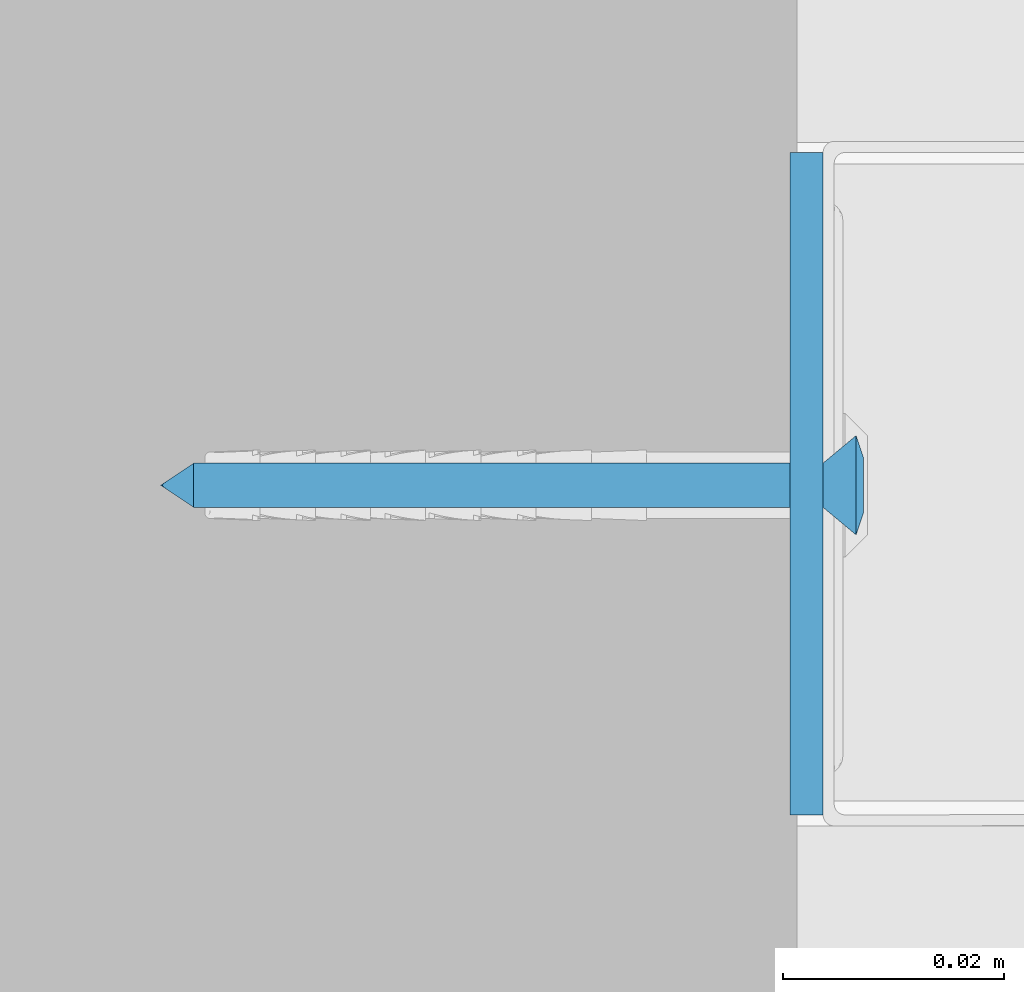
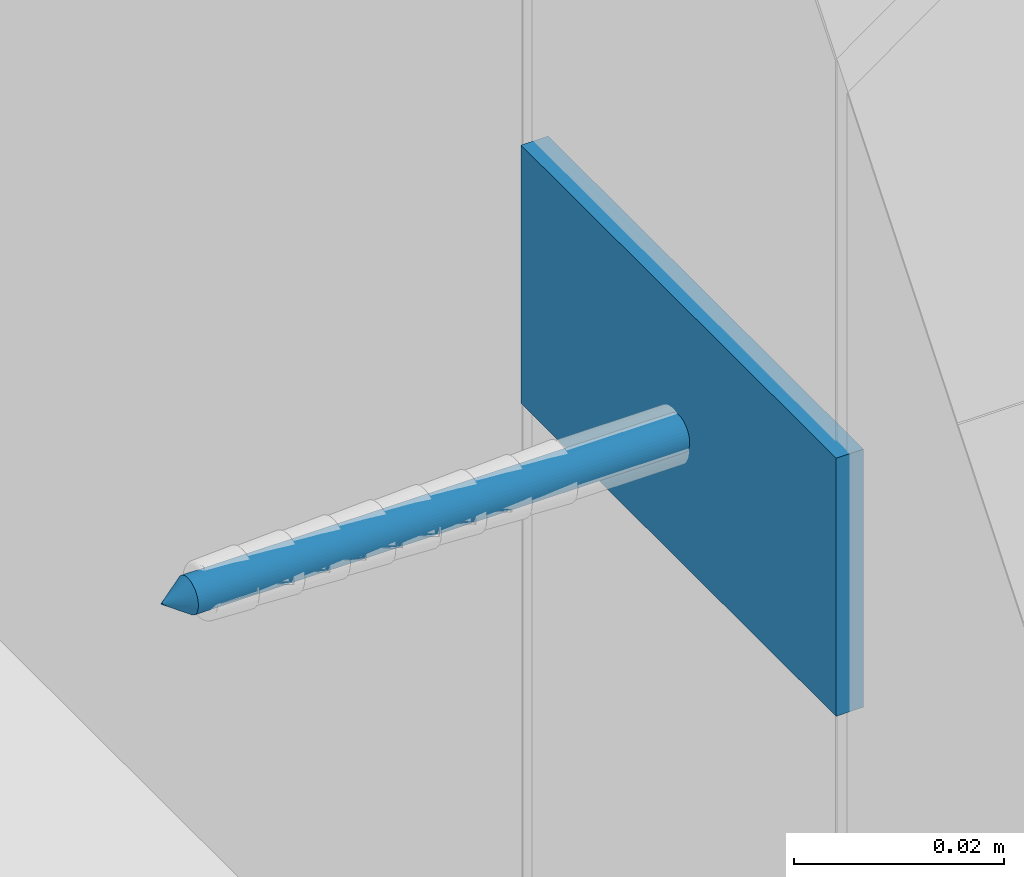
# One storey, part 60 of 67: 2 walls.
"""IFC2X3 building model written with IfcOpenShell, lengths in millimetres."""

from ifc_helpers import new_model, si_unit, frame, origin_with_axes, place, context, subcontext, project, spatial, faceted_brep, material, type_object, element, save


model = new_model("IFC2X3")

# Units and contexts
model_context = context("Model", 3, world=origin_with_axes())
body_context = subcontext(model_context, "Body", "Model", "MODEL_VIEW")
ifc_project = project(units=[si_unit("LENGTHUNIT", "METRE", prefix="MILLI"), si_unit("AREAUNIT", "SQUARE_METRE"), si_unit("VOLUMEUNIT", "CUBIC_METRE")], contexts=[model_context])

# Site, building, storey
site_placement = place(None, frame((2152.14102611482, 674.9749105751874, 57.61556563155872), z_axis=(0.0, 0.0, 1.0), x_axis=(-1.1102230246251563e-16, 1.0, 0.0)))
site = spatial("IfcSite", under=ifc_project, at=site_placement, Name="Default Site", CompositionType="ELEMENT")
building_placement = place(site_placement, origin_with_axes())
building = spatial("IfcBuilding", under=site, at=building_placement, Name="Default Building", CompositionType="ELEMENT")
storey_placement = place(building_placement, origin_with_axes())
storey = spatial("IfcBuildingStorey", under=building, at=storey_placement, Name="Default Building Storey", CompositionType="ELEMENT", Elevation=57.61556563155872)

# Walls
ifc_material = material(Name="Default")
wall_type_1 = type_object("IfcWallType", Name="Kołek rozporowy min. fi 6#35", PredefinedType="NOTDEFINED")
wall_1_placement = place(storey_placement, frame((6891.176283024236, 2016.3286110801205, 1539.671890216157), z_axis=(-6.858158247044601e-13, -1.0, 7.64238051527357e-14), x_axis=(-1.6476028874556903e-11, 7.642380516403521e-14, 1.0)))
element("IfcWall", 1, at=wall_1_placement, inside=storey, type_object=wall_type_1, material=ifc_material, Name="Kołek rozporowy min. fi 6", context=body_context, shape_type="Brep", body=[
    faceted_brep([(-1438.3141994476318, 3453.2833099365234, -0.46425670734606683), (-1435.8141422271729, 3453.2833099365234, -3.464256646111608), (-1435.7895851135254, 3452.970266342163, -3.464256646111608), (-1438.2587671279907, 3452.579259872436, -0.46425670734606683), (-1435.7162714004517, 3452.6650905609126, -3.464256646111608), (-1438.093900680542, 3451.892614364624, -0.46425670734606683), (-1435.5961084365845, 3452.3751735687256, -3.464256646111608), (-1437.8236532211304, 3451.240301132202, -0.46425670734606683), (-1435.4321956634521, 3452.107667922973, -3.464256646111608), (-1437.4547004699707, 3450.6382942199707, -0.46425670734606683), (-1435.22834777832, 3451.8690109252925, -3.464256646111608), (-1436.9961023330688, 3450.101137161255, -0.46425670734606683), (-1434.9896907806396, 3451.665163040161, -3.464256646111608), (-1436.4591836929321, 3449.642658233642, -0.46425670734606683), (-1434.7221851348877, 3451.501131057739, -3.464256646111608), (-1435.8570575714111, 3449.2735862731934, -0.46425670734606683), (-1434.4321489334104, 3451.381206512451, -3.464256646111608), (-1435.2047443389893, 3449.0034580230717, -0.46425670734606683), (-1434.1269731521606, 3451.307773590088, -3.464256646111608), (-1434.5180988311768, 3448.838710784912, -0.46425670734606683), (-1433.8141679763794, 3451.28321647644, -3.464256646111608), (-1433.8141679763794, 3448.7831592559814, -0.46425670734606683), (-1433.5012435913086, 3451.307773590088, -3.464256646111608), (-1433.110237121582, 3448.838710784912, -0.46425670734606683), (-1433.1960678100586, 3451.381206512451, -3.464256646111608), (-1432.4235916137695, 3449.0034580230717, -0.46425670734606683), (-1432.9061508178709, 3451.501131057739, -3.464256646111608), (-1431.771159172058, 3449.2735862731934, -0.46425670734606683), (-1432.6385259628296, 3451.665163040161, -3.464256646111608), (-1431.1691522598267, 3449.642658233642, -0.46425670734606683), (-1432.3999881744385, 3451.8690109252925, -3.464256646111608), (-1430.6321144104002, 3450.101137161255, -0.46425670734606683), (-1432.1961402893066, 3452.107667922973, -3.464256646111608), (-1430.1735162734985, 3450.6382942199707, -0.46425670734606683), (-1432.0321083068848, 3452.3751735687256, -3.464256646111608), (-1429.8045635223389, 3451.240301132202, -0.46425670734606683), (-1431.9120645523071, 3452.6650905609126, -3.464256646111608), (-1429.5344352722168, 3451.892614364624, -0.46425670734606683), (-1431.8387508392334, 3453.5961151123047, -3.464256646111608), (-1429.369568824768, 3453.9871215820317, -0.46425670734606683), (-1429.314136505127, 3453.2833099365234, -0.46425670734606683), (-1431.814193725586, 3453.2833099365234, -3.464256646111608), (-1429.369568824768, 3452.579259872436, -0.46425670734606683), (-1431.8387508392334, 3452.970266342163, -3.464256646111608), (-1431.9120645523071, 3453.9012908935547, -3.464256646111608), (-1429.5344352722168, 3454.6737670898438, -0.46425670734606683), (-1432.0321083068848, 3454.191207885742, -3.464256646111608), (-1429.8045635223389, 3455.3260803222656, -0.46425670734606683), (-1432.1961402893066, 3454.458713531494, -3.464256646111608), (-1430.1735162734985, 3455.9283256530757, -0.46425670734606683), (-1432.3999881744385, 3454.6973705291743, -3.464256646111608), (-1430.6321144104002, 3456.465244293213, -0.46425670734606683), (-1432.6385259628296, 3454.9012184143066, -3.464256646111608), (-1431.1691522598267, 3456.923723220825, -0.46425670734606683), (-1432.9061508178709, 3455.065250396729, -3.464256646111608), (-1431.771159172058, 3457.2927951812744, -0.46425670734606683), (-1433.1960678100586, 3455.1854133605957, -3.464256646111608), (-1432.4235916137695, 3457.562923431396, -0.46425670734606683), (-1433.5012435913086, 3455.25860786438, -3.464256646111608), (-1433.110237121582, 3457.7279090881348, -0.46425670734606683), (-1433.8141679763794, 3455.283164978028, -3.464256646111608), (-1433.8141679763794, 3457.7832221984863, -0.46425670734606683), (-1434.3430995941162, 3457.7519893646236, -0.46425670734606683), (-1434.1269731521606, 3455.25860786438, -3.464256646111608), (-1434.4321489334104, 3455.1854133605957, -3.464256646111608), (-1434.8646402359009, 3457.6590061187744, -0.46425670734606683), (-1435.3716373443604, 3457.504987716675, -0.46425670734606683), (-1434.7221851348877, 3455.065250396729, -3.464256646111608), (-1435.8570575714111, 3457.2927951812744, -0.46425670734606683), (-1434.9896907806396, 3454.9012184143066, -3.464256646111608), (-1435.22834777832, 3454.6973705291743, -3.464256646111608), (-1436.3142251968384, 3457.024812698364, -0.46425670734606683), (-1436.7367029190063, 3456.705093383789, -0.46425670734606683), (-1437.118649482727, 3456.337928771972, -0.46425670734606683), (-1437.4547004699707, 3455.9283256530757, -0.46425670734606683), (-1435.4321956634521, 3454.458713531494, -3.464256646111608), (-1435.5961084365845, 3454.191207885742, -3.464256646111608), (-1437.8236532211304, 3455.3260803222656, -0.46425670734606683), (-1435.7162714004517, 3453.9012908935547, -3.464256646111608), (-1438.093900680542, 3454.6737670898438, -0.46425670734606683), (-1435.7895851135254, 3453.5961151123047, -3.464256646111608), (-1438.2587671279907, 3453.9871215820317, -0.46425670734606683), (-1434.2052936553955, 3455.752372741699, 0.20073754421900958), (-1433.8141679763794, 3455.7831287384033, 0.20073754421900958), (-1434.5866441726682, 3455.6608200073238, 0.20073754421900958), (-1434.9491596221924, 3455.510854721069, 0.20073754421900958), (-1435.2836608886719, 3455.305814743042, 0.20073754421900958), (-1435.581922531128, 3455.0509452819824, 0.20073754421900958), (-1435.836672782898, 3454.7526836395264, 0.20073754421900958), (-1436.0417127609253, 3454.418182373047, 0.20073754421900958), (-1436.1917972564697, 3454.0557861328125, 0.20073754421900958), (-1436.2833499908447, 3453.6743164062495, 0.20073754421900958), (-1436.3141059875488, 3453.2833099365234, 0.20073754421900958), (-1436.2833499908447, 3452.8920650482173, 0.20073754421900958), (-1436.1917972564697, 3452.5105953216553, 0.20073754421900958), (-1436.0417127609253, 3452.148199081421, 0.20073754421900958), (-1435.836672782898, 3451.8136978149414, 0.20073754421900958), (-1435.581922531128, 3451.5154361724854, 0.20073754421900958), (-1435.2836608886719, 3451.260566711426, 0.20073754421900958), (-1434.9491596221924, 3451.0557651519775, 0.20073754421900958), (-1434.5866441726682, 3450.905561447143, 0.20073754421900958), (-1433.4230422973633, 3450.8140087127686, 0.20073754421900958), (-1433.8141679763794, 3450.7832527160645, 0.20073754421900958), (-1434.2052936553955, 3450.8140087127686, 0.20073754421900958), (-1433.0415725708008, 3450.905561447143, 0.20073754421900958), (-1432.6791763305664, 3451.0557651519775, 0.20073754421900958), (-1432.344675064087, 3451.260566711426, 0.20073754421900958), (-1432.0464134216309, 3451.5154361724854, 0.20073754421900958), (-1431.7916631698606, 3451.8136978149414, 0.20073754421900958), (-1431.5866231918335, 3452.148199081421, 0.20073754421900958), (-1431.436538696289, 3452.5105953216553, 0.20073754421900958), (-1431.344985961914, 3452.8920650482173, 0.20073754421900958), (-1431.3141107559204, 3453.2833099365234, 0.20073754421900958), (-1431.344985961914, 3453.6743164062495, 0.20073754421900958), (-1431.436538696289, 3454.0557861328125, 0.20073754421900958), (-1431.5866231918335, 3454.418182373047, 0.20073754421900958), (-1431.7916631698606, 3454.7526836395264, 0.20073754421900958), (-1432.0464134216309, 3455.0509452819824, 0.20073754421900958), (-1432.344675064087, 3455.305814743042, 0.20073754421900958), (-1432.6791763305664, 3455.510854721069, 0.20073754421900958), (-1433.0415725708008, 3455.6608200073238, 0.20073754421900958), (-1433.4230422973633, 3455.752372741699, 0.20073754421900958), (-1433.8141679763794, 3453.2833099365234, -63.46425414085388), (-1435.7895851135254, 3452.970266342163, -60.464255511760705), (-1435.8141422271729, 3453.2833099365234, -60.464255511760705), (-1435.7162714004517, 3452.6650905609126, -60.464255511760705), (-1435.5961084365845, 3452.3751735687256, -60.464255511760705), (-1435.4321956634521, 3452.107667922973, -60.464255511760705), (-1435.22834777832, 3451.8690109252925, -60.464255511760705), (-1434.9896907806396, 3451.665163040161, -60.464255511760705), (-1434.7221851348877, 3451.501131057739, -60.464255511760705), (-1434.4321489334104, 3451.381206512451, -60.464255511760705), (-1434.1269731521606, 3451.307773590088, -60.464255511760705), (-1433.8141679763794, 3451.28321647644, -60.464255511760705), (-1433.5012435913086, 3451.307773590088, -60.464255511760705), (-1433.1960678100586, 3451.381206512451, -60.464255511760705), (-1432.9061508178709, 3451.501131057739, -60.464255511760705), (-1432.6385259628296, 3451.665163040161, -60.464255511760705), (-1432.3999881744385, 3451.8690109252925, -60.464255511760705), (-1432.1961402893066, 3452.107667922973, -60.464255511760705), (-1432.0321083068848, 3452.3751735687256, -60.464255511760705), (-1431.9120645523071, 3452.6650905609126, -60.464255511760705), (-1431.8387508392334, 3452.970266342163, -60.464255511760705), (-1431.814193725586, 3453.2833099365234, -60.464255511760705), (-1431.8387508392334, 3453.5961151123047, -60.464255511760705), (-1431.9120645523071, 3453.9012908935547, -60.464255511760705), (-1432.0321083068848, 3454.191207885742, -60.464255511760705), (-1432.1961402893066, 3454.458713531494, -60.464255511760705), (-1432.3999881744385, 3454.6973705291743, -60.464255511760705), (-1432.6385259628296, 3454.9012184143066, -60.464255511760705), (-1432.9061508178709, 3455.065250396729, -60.464255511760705), (-1433.1960678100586, 3455.1854133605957, -60.464255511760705), (-1433.5012435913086, 3455.25860786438, -60.464255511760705), (-1433.8141679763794, 3455.283164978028, -60.464255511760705), (-1434.1269731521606, 3455.25860786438, -60.464255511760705), (-1434.4321489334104, 3455.1854133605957, -60.464255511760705), (-1434.7221851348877, 3455.065250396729, -60.464255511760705), (-1434.9896907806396, 3454.9012184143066, -60.464255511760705), (-1435.22834777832, 3454.6973705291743, -60.464255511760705), (-1435.4321956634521, 3454.458713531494, -60.464255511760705), (-1435.5961084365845, 3454.191207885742, -60.464255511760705), (-1435.7162714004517, 3453.9012908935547, -60.464255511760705), (-1435.7895851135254, 3453.5961151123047, -60.464255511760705), (-1436.0417127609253, 3454.418182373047, 0.049999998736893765), (-1436.1917972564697, 3454.0557861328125, 0.049999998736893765), (-1436.2833499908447, 3453.6743164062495, 0.049999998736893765), (-1436.3141059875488, 3453.2833099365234, 0.049999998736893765), (-1436.2833499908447, 3452.8920650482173, 0.049999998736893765), (-1436.1917972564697, 3452.5105953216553, 0.049999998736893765), (-1436.0417127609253, 3452.148199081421, 0.049999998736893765), (-1435.836672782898, 3451.8136978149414, 0.049999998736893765), (-1435.581922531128, 3451.5154361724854, 0.049999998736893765), (-1435.2836608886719, 3451.260566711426, 0.049999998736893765), (-1434.9491596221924, 3451.0557651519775, 0.049999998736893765), (-1434.5866441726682, 3450.905561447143, 0.049999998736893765), (-1434.2052936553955, 3450.8140087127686, 0.049999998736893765), (-1433.8141679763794, 3450.7832527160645, 0.049999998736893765), (-1433.4230422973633, 3450.8140087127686, 0.049999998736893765), (-1433.0415725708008, 3450.905561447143, 0.049999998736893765), (-1432.6791763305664, 3451.0557651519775, 0.049999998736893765), (-1432.344675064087, 3451.260566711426, 0.049999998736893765), (-1432.0464134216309, 3451.5154361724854, 0.049999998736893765), (-1431.7916631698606, 3451.8136978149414, 0.049999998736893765), (-1431.5866231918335, 3452.148199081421, 0.049999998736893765), (-1431.436538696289, 3452.5105953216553, 0.049999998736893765), (-1431.344985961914, 3452.8920650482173, 0.049999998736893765), (-1431.3141107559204, 3453.2833099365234, 0.049999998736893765), (-1431.344985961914, 3453.6743164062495, 0.049999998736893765), (-1431.436538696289, 3454.0557861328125, 0.049999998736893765), (-1431.5866231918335, 3454.418182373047, 0.049999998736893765), (-1431.7916631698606, 3454.7526836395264, 0.049999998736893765), (-1432.0464134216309, 3455.0509452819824, 0.049999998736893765), (-1432.344675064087, 3455.305814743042, 0.049999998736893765), (-1432.6791763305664, 3455.510854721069, 0.049999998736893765), (-1433.0415725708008, 3455.6608200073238, 0.049999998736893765), (-1433.4230422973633, 3455.752372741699, 0.049999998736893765), (-1433.8141679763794, 3455.7831287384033, 0.049999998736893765), (-1434.2052936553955, 3455.752372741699, 0.049999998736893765), (-1434.5866441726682, 3455.6608200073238, 0.049999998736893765), (-1434.9491596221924, 3455.510854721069, 0.049999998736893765), (-1435.2836608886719, 3455.305814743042, 0.049999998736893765), (-1435.581922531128, 3455.0509452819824, 0.049999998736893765), (-1435.836672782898, 3454.7526836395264, 0.049999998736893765), (-1434.3141317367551, 3452.7831077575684, 0.049999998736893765), (-1435.8141422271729, 3452.7831077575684, 0.049999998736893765), (-1435.8141422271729, 3453.7832736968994, 0.049999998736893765), (-1434.3141317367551, 3453.7832736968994, 0.049999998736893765), (-1434.3141317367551, 3455.283164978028, 0.049999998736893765), (-1433.3142042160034, 3455.283164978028, 0.049999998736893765), (-1433.3142042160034, 3453.7832736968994, 0.049999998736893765), (-1431.814193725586, 3453.7832736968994, 0.049999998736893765), (-1431.814193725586, 3452.7831077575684, 0.049999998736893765), (-1433.3142042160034, 3452.7831077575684, 0.049999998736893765), (-1433.3142042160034, 3451.28321647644, 0.049999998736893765), (-1434.3141317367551, 3451.28321647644, 0.049999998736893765), (-1434.3141317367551, 3452.7831077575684, -1.799262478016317), (-1434.3141317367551, 3451.28321647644, -1.799262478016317), (-1433.3142042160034, 3451.28321647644, -1.799262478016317), (-1433.3142042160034, 3452.7831077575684, -1.799262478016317), (-1431.814193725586, 3452.7831077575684, -1.799262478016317), (-1431.814193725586, 3453.7832736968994, -1.799262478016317), (-1433.3142042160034, 3453.7832736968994, -1.799262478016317), (-1433.3142042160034, 3455.283164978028, -1.799262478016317), (-1434.3141317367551, 3455.283164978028, -1.799262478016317), (-1434.3141317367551, 3453.7832736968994, -1.799262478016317), (-1435.8141422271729, 3453.7832736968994, -1.799262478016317), (-1435.8141422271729, 3452.7831077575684, -1.799262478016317)], [[[0, 1, 2, 3]], [[4, 5, 3, 2]], [[6, 7, 5, 4]], [[7, 6, 8, 9]], [[10, 11, 9, 8]], [[11, 10, 12, 13]], [[14, 15, 13, 12]], [[16, 17, 15, 14]], [[17, 16, 18, 19]], [[20, 21, 19, 18]], [[21, 20, 22, 23]], [[24, 25, 23, 22]], [[26, 27, 25, 24]], [[27, 26, 28, 29]], [[30, 31, 29, 28]], [[31, 30, 32, 33]], [[34, 35, 33, 32]], [[36, 37, 35, 34]], [[38, 39, 40, 41]], [[41, 40, 42, 43]], [[37, 36, 43, 42]], [[44, 45, 39, 38]], [[46, 47, 45, 44]], [[47, 46, 48, 49]], [[50, 51, 49, 48]], [[51, 50, 52, 53]], [[54, 55, 53, 52]], [[56, 57, 55, 54]], [[57, 56, 58, 59]], [[60, 61, 59, 58]], [[62, 61, 63]], [[61, 60, 63]], [[63, 64, 62]], [[64, 65, 62]], [[66, 65, 64]], [[64, 67, 66]], [[67, 68, 66]], [[69, 70, 71]], [[70, 72, 71]], [[71, 68, 69]], [[68, 67, 69]], [[70, 73, 72]], [[74, 73, 75]], [[73, 70, 75]], [[76, 77, 74, 75]], [[78, 79, 77, 76]], [[79, 78, 80, 81]], [[1, 0, 81, 80]], [[82, 83, 62]], [[83, 61, 62]], [[62, 65, 82]], [[65, 84, 82]], [[66, 68, 84]], [[68, 85, 84]], [[84, 65, 66]], [[86, 85, 71]], [[85, 68, 71]], [[72, 73, 87]], [[87, 86, 72]], [[86, 71, 72]], [[88, 87, 74]], [[87, 73, 74]], [[77, 89, 88, 74]], [[79, 90, 89, 77]], [[90, 79, 81, 91]], [[0, 92, 91, 81]], [[92, 0, 3, 93]], [[5, 94, 93, 3]], [[7, 95, 94, 5]], [[95, 7, 9, 96]], [[11, 97, 96, 9]], [[97, 11, 13, 98]], [[15, 99, 98, 13]], [[17, 100, 99, 15]], [[23, 101, 102, 21]], [[21, 102, 103, 19]], [[100, 17, 19, 103]], [[25, 104, 101, 23]], [[27, 105, 104, 25]], [[105, 27, 29, 106]], [[31, 107, 106, 29]], [[107, 31, 33, 108]], [[35, 109, 108, 33]], [[37, 110, 109, 35]], [[110, 37, 42, 111]], [[40, 112, 111, 42]], [[112, 40, 39, 113]], [[45, 114, 113, 39]], [[47, 115, 114, 45]], [[115, 47, 49, 116]], [[51, 117, 116, 49]], [[117, 51, 53, 118]], [[55, 119, 118, 53]], [[57, 120, 119, 55]], [[120, 57, 59, 121]], [[61, 83, 121, 59]], [[122, 123, 124]], [[122, 125, 123]], [[122, 126, 125]], [[127, 126, 122]], [[122, 128, 127]], [[129, 128, 122]], [[122, 130, 129]], [[122, 131, 130]], [[132, 131, 122]], [[122, 133, 132]], [[134, 133, 122]], [[122, 135, 134]], [[122, 136, 135]], [[137, 136, 122]], [[122, 138, 137]], [[139, 138, 122]], [[122, 140, 139]], [[122, 141, 140]], [[142, 141, 122]], [[122, 143, 142]], [[144, 143, 122]], [[122, 145, 144]], [[122, 146, 145]], [[147, 146, 122]], [[122, 148, 147]], [[149, 148, 122]], [[122, 150, 149]], [[122, 151, 150]], [[152, 151, 122]], [[122, 153, 152]], [[154, 153, 122]], [[122, 155, 154]], [[122, 156, 155]], [[157, 156, 122]], [[122, 158, 157]], [[159, 158, 122]], [[122, 160, 159]], [[122, 161, 160]], [[162, 161, 122]], [[124, 162, 122]], [[1, 124, 123, 2]], [[125, 4, 2, 123]], [[126, 6, 4, 125]], [[6, 126, 127, 8]], [[128, 10, 8, 127]], [[10, 128, 129, 12]], [[130, 14, 12, 129]], [[131, 16, 14, 130]], [[16, 131, 132, 18]], [[133, 20, 18, 132]], [[20, 133, 134, 22]], [[135, 24, 22, 134]], [[136, 26, 24, 135]], [[26, 136, 137, 28]], [[138, 30, 28, 137]], [[30, 138, 139, 32]], [[140, 34, 32, 139]], [[141, 36, 34, 140]], [[144, 38, 41, 143]], [[143, 41, 43, 142]], [[36, 141, 142, 43]], [[145, 44, 38, 144]], [[146, 46, 44, 145]], [[46, 146, 147, 48]], [[148, 50, 48, 147]], [[50, 148, 149, 52]], [[150, 54, 52, 149]], [[151, 56, 54, 150]], [[56, 151, 152, 58]], [[153, 60, 58, 152]], [[60, 153, 154, 63]], [[155, 64, 63, 154]], [[156, 67, 64, 155]], [[67, 156, 157, 69]], [[158, 70, 69, 157]], [[70, 158, 159, 75]], [[160, 76, 75, 159]], [[161, 78, 76, 160]], [[78, 161, 162, 80]], [[124, 1, 80, 162]], [[163, 164, 165, 166, 167, 168, 169, 170, 171, 172, 173, 174, 175, 176, 177, 178, 179, 180, 181, 182, 183, 184, 185, 186, 187, 188, 189, 190, 191, 192, 193, 194, 195, 196, 197, 198, 199, 200, 201, 202], [203, 204, 205, 206, 207, 208, 209, 210, 211, 212, 213, 214]], [[187, 186, 112, 113]], [[113, 114, 188, 187]], [[114, 115, 189, 188]], [[190, 189, 115, 116]], [[116, 117, 191, 190]], [[192, 191, 117, 118]], [[118, 119, 193, 192]], [[119, 120, 194, 193]], [[195, 194, 120, 121]], [[121, 83, 196, 195]], [[197, 196, 83, 82]], [[82, 84, 198, 197]], [[84, 85, 199, 198]], [[200, 199, 85, 86]], [[86, 87, 201, 200]], [[202, 201, 87, 88]], [[88, 89, 163, 202]], [[89, 90, 164, 163]], [[92, 93, 167, 166]], [[91, 92, 166, 165]], [[165, 164, 90, 91]], [[93, 94, 168, 167]], [[94, 95, 169, 168]], [[170, 169, 95, 96]], [[96, 97, 171, 170]], [[172, 171, 97, 98]], [[98, 99, 173, 172]], [[99, 100, 174, 173]], [[175, 174, 100, 103]], [[103, 102, 176, 175]], [[177, 176, 102, 101]], [[101, 104, 178, 177]], [[104, 105, 179, 178]], [[180, 179, 105, 106]], [[106, 107, 181, 180]], [[182, 181, 107, 108]], [[108, 109, 183, 182]], [[109, 110, 184, 183]], [[185, 184, 110, 111]], [[111, 112, 186, 185]], [[215, 216, 217, 218, 219, 220, 221, 222, 223, 224, 225, 226]], [[216, 214, 213, 217]], [[215, 203, 214, 216]], [[226, 204, 203, 215]], [[225, 205, 204, 226]], [[224, 206, 205, 225]], [[223, 207, 206, 224]], [[222, 208, 207, 223]], [[221, 209, 208, 222]], [[220, 210, 209, 221]], [[219, 211, 210, 220]], [[218, 212, 211, 219]], [[217, 213, 212, 218]]]),
])
wall_type_2 = type_object("IfcWallType", Name="Taśma uszczelniająca piankowa RIGIPS szer.30mm#9", PredefinedType="NOTDEFINED")
wall_2_placement = place(storey_placement, frame((3408.037086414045, 2019.778611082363, 120.96024801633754), z_axis=(0.0, 0.0, 1.0), x_axis=(1.0, 0.0, 0.0)))
element("IfcWall", 2, at=wall_2_placement, inside=storey, type_object=wall_type_2, material=ifc_material, Name="Taśma uszczelniająca piankowa RIGIPS szer.30mm", context=body_context, shape_type="Brep", body=[
    faceted_brep([(59.99999865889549, 0.0, 4.511946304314e-12), (0.0, 0.0, 0.0), (1.0828671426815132e-12, -2.2379254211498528e-11, -29.999999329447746), (59.99999865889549, -2.2379254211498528e-11, -29.999999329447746), (0.0, 3.000000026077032, 0.0), (1.0828671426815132e-12, 3.000000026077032, -29.999999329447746), (59.99999865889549, 3.000000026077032, 0.0), (59.99999865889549, 3.000000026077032, -29.999999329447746)], [[[0, 1, 2, 3]], [[1, 4, 5, 2]], [[4, 6, 7, 5]], [[6, 0, 3, 7]], [[7, 3, 2, 5]], [[0, 6, 4, 1]]]),
])

save(model, "model.ifc")
